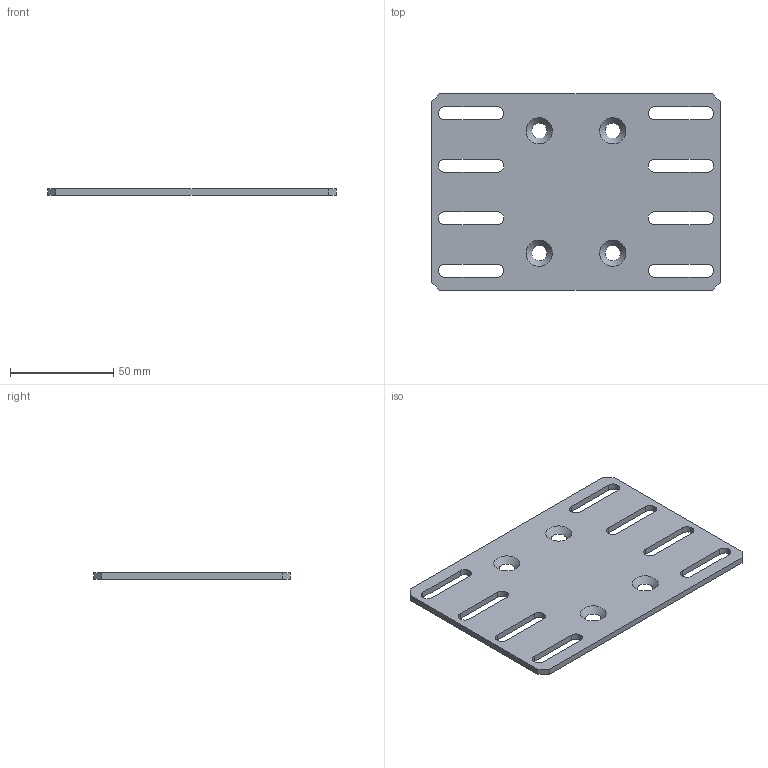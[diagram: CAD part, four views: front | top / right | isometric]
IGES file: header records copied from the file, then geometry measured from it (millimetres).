
Global section: file name: No Iges File Name specified; native system: AutoDesk Inventor R5.0; preprocessor: AutoDesk Inventor Iges Exporter R5.0; author: No Author specified; organization: No Organization specified; date: 20070111.212300; units: inch
Bounding box: 139.7 x 95.25 x 3.05 mm (x, y, z)
Surface area: 26427.8 mm2 (no closed solid volume)
Topology: 0 solids, 0 shells, 50 faces, 276 edges, 268 vertices
Faces by surface type: bspline 20, plane 18, revolution 12
